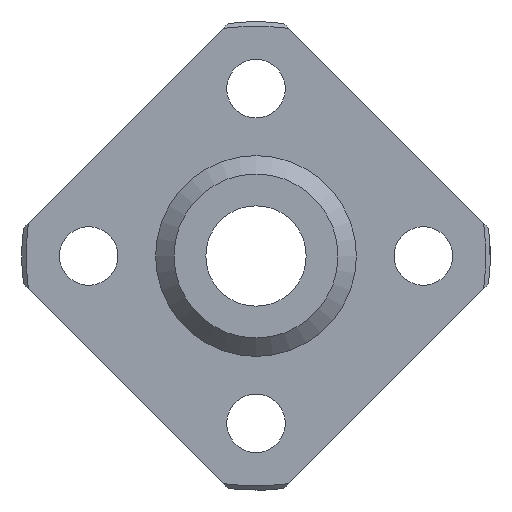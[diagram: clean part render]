
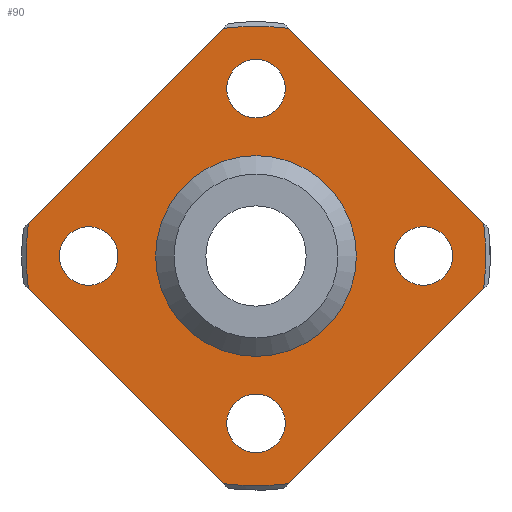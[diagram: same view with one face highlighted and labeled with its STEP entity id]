
A CAD part, left-side view. The second image highlights one B-rep face of the part: STEP entity #90.
In plain terms, the highlighted planar face has unit normal (-1, 0, 0).
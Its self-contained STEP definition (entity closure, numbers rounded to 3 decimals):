
#90=ADVANCED_FACE('',(#155,#156,#157,#158,#159,#160),#161,.F.);
#155=FACE_OUTER_BOUND('',#249,.T.);
#156=FACE_BOUND('',#250,.T.);
#157=FACE_BOUND('',#251,.T.);
#158=FACE_BOUND('',#252,.T.);
#159=FACE_BOUND('',#253,.T.);
#160=FACE_BOUND('',#254,.T.);
#161=PLANE('',#255);
#249=EDGE_LOOP('',(#400,#401,#402,#403,#404,#405,#406,#407));
#250=EDGE_LOOP('',(#408));
#251=EDGE_LOOP('',(#409));
#252=EDGE_LOOP('',(#410));
#253=EDGE_LOOP('',(#411));
#254=EDGE_LOOP('',(#412));
#255=AXIS2_PLACEMENT_3D('',#413,#414,#415);
#400=ORIENTED_EDGE('',*,*,#581,.F.);
#401=ORIENTED_EDGE('',*,*,#548,.F.);
#402=ORIENTED_EDGE('',*,*,#538,.F.);
#403=ORIENTED_EDGE('',*,*,#582,.F.);
#404=ORIENTED_EDGE('',*,*,#583,.F.);
#405=ORIENTED_EDGE('',*,*,#584,.F.);
#406=ORIENTED_EDGE('',*,*,#549,.F.);
#407=ORIENTED_EDGE('',*,*,#585,.F.);
#408=ORIENTED_EDGE('',*,*,#578,.T.);
#409=ORIENTED_EDGE('',*,*,#575,.T.);
#410=ORIENTED_EDGE('',*,*,#571,.T.);
#411=ORIENTED_EDGE('',*,*,#586,.T.);
#412=ORIENTED_EDGE('',*,*,#587,.T.);
#413=CARTESIAN_POINT('',(-8.0,6.0,0.0));
#414=DIRECTION('',(1.0,0.0,0.0));
#415=DIRECTION('',(0.0,0.0,-1.0));
#538=EDGE_CURVE('',#607,#608,#609,.T.);
#548=EDGE_CURVE('',#608,#624,#627,.T.);
#549=EDGE_CURVE('',#628,#629,#630,.T.);
#571=EDGE_CURVE('',#670,#670,#671,.T.);
#575=EDGE_CURVE('',#678,#678,#679,.T.);
#578=EDGE_CURVE('',#684,#684,#685,.T.);
#581=EDGE_CURVE('',#624,#689,#690,.T.);
#582=EDGE_CURVE('',#691,#607,#692,.T.);
#583=EDGE_CURVE('',#693,#691,#694,.T.);
#584=EDGE_CURVE('',#629,#693,#695,.T.);
#585=EDGE_CURVE('',#689,#628,#696,.T.);
#586=EDGE_CURVE('',#697,#697,#698,.T.);
#587=EDGE_CURVE('',#699,#699,#700,.T.);
#607=VERTEX_POINT('',#729);
#608=VERTEX_POINT('',#730);
#609=LINE('',#731,#732);
#624=VERTEX_POINT('',#762);
#627=CIRCLE('',#768,13.746);
#628=VERTEX_POINT('',#769);
#629=VERTEX_POINT('',#770);
#630=LINE('',#771,#772);
#670=VERTEX_POINT('',#829);
#671=CIRCLE('',#830,1.75);
#678=VERTEX_POINT('',#837);
#679=CIRCLE('',#838,1.75);
#684=VERTEX_POINT('',#843);
#685=CIRCLE('',#844,1.75);
#689=VERTEX_POINT('',#851);
#690=LINE('',#852,#853);
#691=VERTEX_POINT('',#854);
#692=CIRCLE('',#855,13.746);
#693=VERTEX_POINT('',#856);
#694=LINE('',#857,#858);
#695=CIRCLE('',#859,13.746);
#696=CIRCLE('',#860,13.746);
#697=VERTEX_POINT('',#861);
#698=CIRCLE('',#862,1.75);
#699=VERTEX_POINT('',#863);
#700=CIRCLE('',#864,6.0);
#729=CARTESIAN_POINT('',(-8.0,1.949,-13.607));
#730=CARTESIAN_POINT('',(-8.0,13.607,-1.949));
#731=CARTESIAN_POINT('',(-8.0,10.778,-4.778));
#732=VECTOR('',#915,1.0);
#762=CARTESIAN_POINT('',(-8.0,13.607,1.949));
#768=AXIS2_PLACEMENT_3D('',#922,#923,#924);
#769=CARTESIAN_POINT('',(-8.0,-1.949,13.607));
#770=CARTESIAN_POINT('',(-8.0,-13.607,1.949));
#771=CARTESIAN_POINT('',(-8.0,-4.778,10.778));
#772=VECTOR('',#925,1.0);
#829=CARTESIAN_POINT('',(-8.0,10.0,-1.75));
#830=AXIS2_PLACEMENT_3D('',#967,#968,#969);
#837=CARTESIAN_POINT('',(-8.0,0.,-11.75));
#838=AXIS2_PLACEMENT_3D('',#979,#980,#981);
#843=CARTESIAN_POINT('',(-8.0,-10.0,-1.75));
#844=AXIS2_PLACEMENT_3D('',#988,#989,#990);
#851=CARTESIAN_POINT('',(-8.0,1.949,13.607));
#852=CARTESIAN_POINT('',(-8.0,10.778,4.778));
#853=VECTOR('',#994,1.0);
#854=CARTESIAN_POINT('',(-8.0,-1.949,-13.607));
#855=AXIS2_PLACEMENT_3D('',#995,#996,#997);
#856=CARTESIAN_POINT('',(-8.0,-13.607,-1.949));
#857=CARTESIAN_POINT('',(-8.0,-4.778,-10.778));
#858=VECTOR('',#998,1.0);
#859=AXIS2_PLACEMENT_3D('',#999,#1000,#1001);
#860=AXIS2_PLACEMENT_3D('',#1002,#1003,#1004);
#861=CARTESIAN_POINT('',(-8.0,0.,8.25));
#862=AXIS2_PLACEMENT_3D('',#1005,#1006,#1007);
#863=CARTESIAN_POINT('',(-8.0,0.0,-6.0));
#864=AXIS2_PLACEMENT_3D('',#1008,#1009,#1010);
#915=DIRECTION('',(0.0,0.707,0.707));
#922=CARTESIAN_POINT('',(-8.0,0.,0.0));
#923=DIRECTION('',(1.0,0.0,0.0));
#924=DIRECTION('',(0.0,0.0,-1.0));
#925=DIRECTION('',(0.0,-0.707,-0.707));
#967=CARTESIAN_POINT('',(-8.0,10.0,0.));
#968=DIRECTION('',(1.0,0.0,0.0));
#969=DIRECTION('',(0.0,0.0,-1.0));
#979=CARTESIAN_POINT('',(-8.0,0.,-10.0));
#980=DIRECTION('',(1.0,0.0,0.0));
#981=DIRECTION('',(0.0,0.0,-1.0));
#988=CARTESIAN_POINT('',(-8.0,-10.0,0.0));
#989=DIRECTION('',(1.0,0.0,0.0));
#990=DIRECTION('',(0.0,0.0,-1.0));
#994=DIRECTION('',(0.0,-0.707,0.707));
#995=CARTESIAN_POINT('',(-8.0,0.,0.0));
#996=DIRECTION('',(1.0,0.0,0.0));
#997=DIRECTION('',(0.0,0.0,-1.0));
#998=DIRECTION('',(0.0,0.707,-0.707));
#999=CARTESIAN_POINT('',(-8.0,0.,0.0));
#1000=DIRECTION('',(1.0,0.0,0.0));
#1001=DIRECTION('',(0.0,0.0,-1.0));
#1002=CARTESIAN_POINT('',(-8.0,0.,0.0));
#1003=DIRECTION('',(1.0,0.0,0.0));
#1004=DIRECTION('',(0.0,0.0,-1.0));
#1005=CARTESIAN_POINT('',(-8.0,0.,10.0));
#1006=DIRECTION('',(1.0,0.0,0.0));
#1007=DIRECTION('',(0.0,0.0,-1.0));
#1008=CARTESIAN_POINT('',(-8.0,0.0,0.));
#1009=DIRECTION('',(1.0,0.0,0.0));
#1010=DIRECTION('',(0.0,0.0,-1.0));
